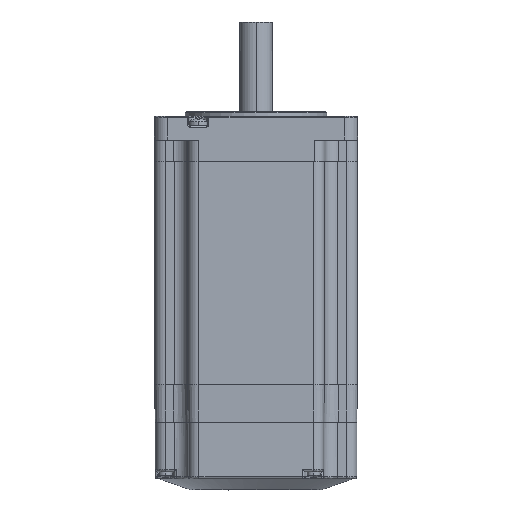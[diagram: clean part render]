
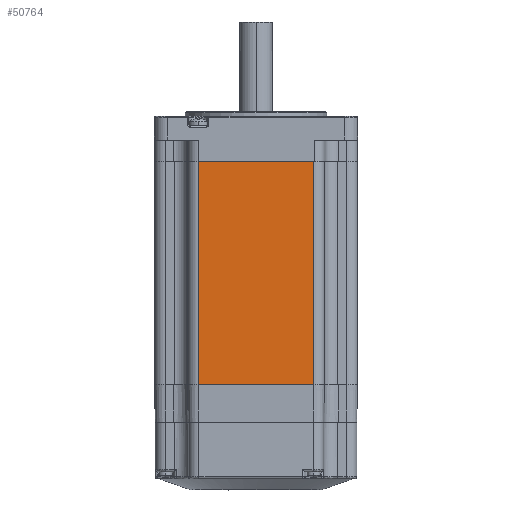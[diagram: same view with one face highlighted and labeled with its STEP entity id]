
A CAD part, front view. The second image highlights one B-rep face of the part: STEP entity #50764.
In plain terms, the highlighted planar face has unit normal (0, -1, 0).
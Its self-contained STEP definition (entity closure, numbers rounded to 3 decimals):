
#13781 = AXIS2_PLACEMENT_3D ( 'NONE', #23280, #23281, #23282 ) ;
#20217 = CARTESIAN_POINT ( 'NONE',  ( -24.5, -43., 0. ) ) ;
#20218 = CARTESIAN_POINT ( 'NONE',  ( 24.5, -43., 0. ) ) ;
#20238 = CARTESIAN_POINT ( 'NONE',  ( -24.5, -43., -94.5 ) ) ;
#20239 = CARTESIAN_POINT ( 'NONE',  ( 24.5, -43., -94.5 ) ) ;
#20597 = CARTESIAN_POINT ( 'NONE',  ( 0., -43., 0. ) ) ;
#20598 = DIRECTION ( 'NONE',  ( -1., 0., 0. ) ) ;
#20669 = CARTESIAN_POINT ( 'NONE',  ( -24.5, -43., -47.25 ) ) ;
#20670 = DIRECTION ( 'NONE',  ( 0., 0., -1. ) ) ;
#20671 = CARTESIAN_POINT ( 'NONE',  ( 24.5, -43., -47.25 ) ) ;
#20672 = DIRECTION ( 'NONE',  ( 0., 0., 1. ) ) ;
#20673 = CARTESIAN_POINT ( 'NONE',  ( 0., -43., -94.5 ) ) ;
#20674 = DIRECTION ( 'NONE',  ( 1., 0., 0. ) ) ;
#21154 = LINE ( 'NONE', #20597, #54813 ) ;
#21168 = LINE ( 'NONE', #20671, #54855 ) ;
#21169 = LINE ( 'NONE', #20669, #54854 ) ;
#21171 = LINE ( 'NONE', #20673, #54856 ) ;
#21492 = FACE_OUTER_BOUND ( 'NONE', #44733, .T. ) ;
#23279 = PLANE ( 'NONE',  #13781 ) ;
#23280 = CARTESIAN_POINT ( 'NONE',  ( -24.5, -43., -94.5 ) ) ;
#23281 = DIRECTION ( 'NONE',  ( 0., -1., 0. ) ) ;
#23282 = DIRECTION ( 'NONE',  ( 1., 0., 0. ) ) ;
#44733 = EDGE_LOOP ( 'NONE', ( #52782, #52784, #52783, #52786 ) ) ;
#49498 = VERTEX_POINT ( 'NONE', #20217 ) ;
#49499 = VERTEX_POINT ( 'NONE', #20218 ) ;
#49519 = VERTEX_POINT ( 'NONE', #20238 ) ;
#49520 = VERTEX_POINT ( 'NONE', #20239 ) ;
#49905 = EDGE_CURVE ( 'NONE', #49499, #49498, #21154, .T. ) ;
#49971 = EDGE_CURVE ( 'NONE', #49498, #49519, #21169, .T. ) ;
#49974 = EDGE_CURVE ( 'NONE', #49520, #49499, #21168, .T. ) ;
#49976 = EDGE_CURVE ( 'NONE', #49519, #49520, #21171, .T. ) ;
#50764 = ADVANCED_FACE ( 'NONE', ( #21492 ), #23279, .T. ) ;
#52782 = ORIENTED_EDGE ( 'NONE', *, *, #49976, .T. ) ;
#52783 = ORIENTED_EDGE ( 'NONE', *, *, #49905, .T. ) ;
#52784 = ORIENTED_EDGE ( 'NONE', *, *, #49974, .T. ) ;
#52786 = ORIENTED_EDGE ( 'NONE', *, *, #49971, .T. ) ;
#54813 = VECTOR ( 'NONE', #20598, 1000. ) ;
#54854 = VECTOR ( 'NONE', #20670, 1000. ) ;
#54855 = VECTOR ( 'NONE', #20672, 1000. ) ;
#54856 = VECTOR ( 'NONE', #20674, 1000. ) ;
